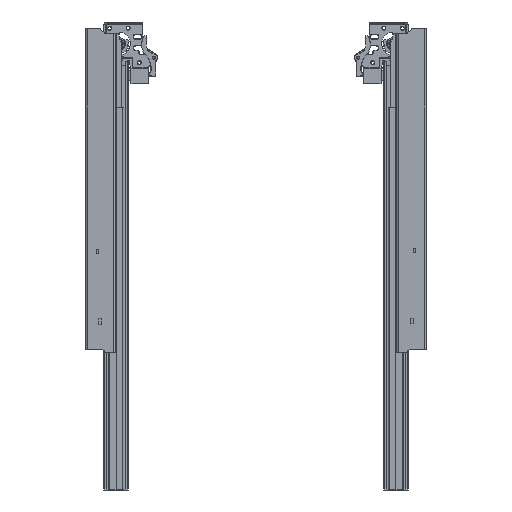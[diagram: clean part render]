
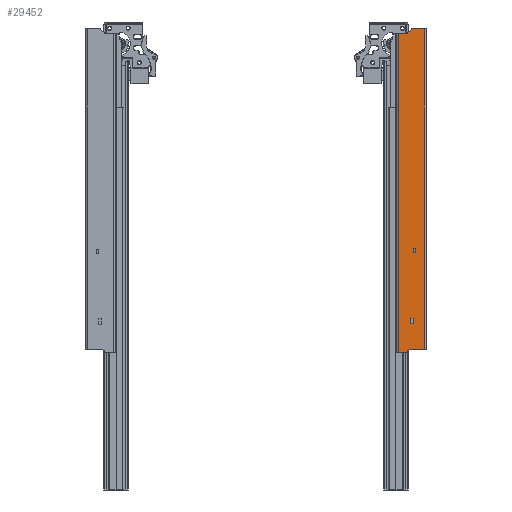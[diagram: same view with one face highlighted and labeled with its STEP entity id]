
A CAD part, front view. The second image highlights one B-rep face of the part: STEP entity #29452.
In plain terms, the highlighted planar face has unit normal (0, -1, 0).
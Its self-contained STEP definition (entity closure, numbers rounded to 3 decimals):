
#913=FACE_BOUND('',#6219,.T.);
#914=FACE_BOUND('',#6220,.T.);
#2063=CIRCLE('',#31495,2.);
#2064=CIRCLE('',#31496,2.);
#4234=FACE_OUTER_BOUND('',#6218,.T.);
#6218=EDGE_LOOP('',(#19273,#19274,#19275,#19276,#19277,#19278,#19279,#19280,
#19281,#19282));
#6219=EDGE_LOOP('',(#19283,#19284,#19285,#19286));
#6220=EDGE_LOOP('',(#19287,#19288,#19289,#19290));
#8328=LINE('',#45893,#10248);
#8332=LINE('',#45901,#10252);
#8335=LINE('',#45907,#10255);
#8338=LINE('',#45912,#10258);
#8340=LINE('',#45918,#10260);
#8344=LINE('',#45926,#10264);
#8347=LINE('',#45932,#10267);
#8350=LINE('',#45937,#10270);
#8352=LINE('',#45943,#10272);
#8357=LINE('',#45957,#10277);
#8375=LINE('',#46012,#10295);
#8376=LINE('',#46015,#10296);
#8377=LINE('',#46019,#10297);
#8378=LINE('',#46023,#10298);
#8379=LINE('',#46025,#10299);
#8380=LINE('',#46026,#10300);
#10248=VECTOR('',#35909,5.);
#10252=VECTOR('',#35915,3.);
#10255=VECTOR('',#35920,5.);
#10258=VECTOR('',#35925,3.);
#10260=VECTOR('',#35931,6.);
#10264=VECTOR('',#35937,3.5);
#10267=VECTOR('',#35942,6.);
#10270=VECTOR('',#35947,3.5);
#10272=VECTOR('',#35953,4.243);
#10277=VECTOR('',#35964,18.);
#10295=VECTOR('',#36010,377.);
#10296=VECTOR('',#36013,14.172);
#10297=VECTOR('',#36016,5.414);
#10298=VECTOR('',#36019,9.672);
#10299=VECTOR('',#36020,375.);
#10300=VECTOR('',#36021,9.5);
#12225=VERTEX_POINT('',#45891);
#12226=VERTEX_POINT('',#45892);
#12229=VERTEX_POINT('',#45900);
#12231=VERTEX_POINT('',#45906);
#12233=VERTEX_POINT('',#45916);
#12234=VERTEX_POINT('',#45917);
#12237=VERTEX_POINT('',#45925);
#12239=VERTEX_POINT('',#45931);
#12241=VERTEX_POINT('',#45941);
#12242=VERTEX_POINT('',#45942);
#12248=VERTEX_POINT('',#45955);
#12271=VERTEX_POINT('',#46010);
#12272=VERTEX_POINT('',#46014);
#12273=VERTEX_POINT('',#46016);
#12274=VERTEX_POINT('',#46018);
#12275=VERTEX_POINT('',#46020);
#12276=VERTEX_POINT('',#46022);
#12277=VERTEX_POINT('',#46024);
#14756=EDGE_CURVE('',#12225,#12226,#8328,.T.);
#14760=EDGE_CURVE('',#12226,#12229,#8332,.T.);
#14763=EDGE_CURVE('',#12229,#12231,#8335,.T.);
#14766=EDGE_CURVE('',#12231,#12225,#8338,.T.);
#14768=EDGE_CURVE('',#12233,#12234,#8340,.T.);
#14772=EDGE_CURVE('',#12234,#12237,#8344,.T.);
#14775=EDGE_CURVE('',#12237,#12239,#8347,.T.);
#14778=EDGE_CURVE('',#12239,#12233,#8350,.T.);
#14780=EDGE_CURVE('',#12241,#12242,#8352,.T.);
#14787=EDGE_CURVE('',#12248,#12241,#8357,.T.);
#14815=EDGE_CURVE('',#12271,#12248,#8375,.T.);
#14816=EDGE_CURVE('',#12271,#12272,#8376,.T.);
#14817=EDGE_CURVE('',#12272,#12273,#2063,.T.);
#14818=EDGE_CURVE('',#12274,#12273,#8377,.T.);
#14819=EDGE_CURVE('',#12274,#12275,#2064,.T.);
#14820=EDGE_CURVE('',#12276,#12275,#8378,.T.);
#14821=EDGE_CURVE('',#12276,#12277,#8379,.T.);
#14822=EDGE_CURVE('',#12277,#12242,#8380,.T.);
#19273=ORIENTED_EDGE('',*,*,#14787,.F.);
#19274=ORIENTED_EDGE('',*,*,#14815,.F.);
#19275=ORIENTED_EDGE('',*,*,#14816,.T.);
#19276=ORIENTED_EDGE('',*,*,#14817,.T.);
#19277=ORIENTED_EDGE('',*,*,#14818,.F.);
#19278=ORIENTED_EDGE('',*,*,#14819,.T.);
#19279=ORIENTED_EDGE('',*,*,#14820,.F.);
#19280=ORIENTED_EDGE('',*,*,#14821,.T.);
#19281=ORIENTED_EDGE('',*,*,#14822,.T.);
#19282=ORIENTED_EDGE('',*,*,#14780,.F.);
#19283=ORIENTED_EDGE('',*,*,#14756,.T.);
#19284=ORIENTED_EDGE('',*,*,#14760,.T.);
#19285=ORIENTED_EDGE('',*,*,#14763,.T.);
#19286=ORIENTED_EDGE('',*,*,#14766,.T.);
#19287=ORIENTED_EDGE('',*,*,#14768,.T.);
#19288=ORIENTED_EDGE('',*,*,#14772,.T.);
#19289=ORIENTED_EDGE('',*,*,#14775,.T.);
#19290=ORIENTED_EDGE('',*,*,#14778,.T.);
#27049=PLANE('',#31494);
#29452=ADVANCED_FACE('',(#4234,#913,#914),#27049,.F.);
#31494=AXIS2_PLACEMENT_3D('',#46013,#36011,#36012);
#31495=AXIS2_PLACEMENT_3D('',#46017,#36014,#36015);
#31496=AXIS2_PLACEMENT_3D('',#46021,#36017,#36018);
#35909=DIRECTION('',(0.,0.,1.));
#35915=DIRECTION('',(1.,0.,0.));
#35920=DIRECTION('',(0.,0.,-1.));
#35925=DIRECTION('',(-1.,0.,0.));
#35931=DIRECTION('',(0.,0.,1.));
#35937=DIRECTION('',(1.,0.,0.));
#35942=DIRECTION('',(0.,0.,-1.));
#35947=DIRECTION('',(-1.,0.,0.));
#35953=DIRECTION('',(-0.707,0.,-0.707));
#35964=DIRECTION('',(-1.,0.,0.));
#36010=DIRECTION('',(0.,0.,-1.));
#36011=DIRECTION('center_axis',(0.,1.,0.));
#36012=DIRECTION('ref_axis',(1.,0.,0.));
#36013=DIRECTION('',(-1.,0.,0.));
#36014=DIRECTION('center_axis',(0.,-1.,0.));
#36015=DIRECTION('ref_axis',(-0.383,0.,0.924));
#36016=DIRECTION('',(0.707,0.,0.707));
#36017=DIRECTION('center_axis',(0.,1.,0.));
#36018=DIRECTION('ref_axis',(0.383,0.,-0.924));
#36019=DIRECTION('',(1.,0.,0.));
#36020=DIRECTION('',(0.,0.,-1.));
#36021=DIRECTION('',(1.,0.,0.));
#45891=CARTESIAN_POINT('',(-15.,0.,-263.));
#45892=CARTESIAN_POINT('',(-15.,0.,-258.));
#45893=CARTESIAN_POINT('',(-15.,0.,-129.));
#45900=CARTESIAN_POINT('',(-12.,0.,-258.));
#45901=CARTESIAN_POINT('',(-22.25,0.,-258.));
#45906=CARTESIAN_POINT('',(-12.,0.,-263.));
#45907=CARTESIAN_POINT('',(-12.,0.,-131.5));
#45912=CARTESIAN_POINT('',(-23.75,0.,-263.));
#45916=CARTESIAN_POINT('',(-18.5,0.,-346.));
#45917=CARTESIAN_POINT('',(-18.5,0.,-340.));
#45918=CARTESIAN_POINT('',(-18.5,0.,-170.));
#45925=CARTESIAN_POINT('',(-15.,0.,-340.));
#45926=CARTESIAN_POINT('',(-23.75,0.,-340.));
#45931=CARTESIAN_POINT('',(-15.,0.,-346.));
#45932=CARTESIAN_POINT('',(-15.,0.,-173.));
#45937=CARTESIAN_POINT('',(-25.5,0.,-346.));
#45941=CARTESIAN_POINT('',(-20.,0.,-377.));
#45942=CARTESIAN_POINT('',(-23.,0.,-380.));
#45943=CARTESIAN_POINT('',(71.125,0.,-285.875));
#45955=CARTESIAN_POINT('',(-2.,0.,-377.));
#45957=CARTESIAN_POINT('',(-16.25,0.,-377.));
#46010=CARTESIAN_POINT('',(-2.,0.,0.));
#46012=CARTESIAN_POINT('',(-2.,0.,0.));
#46013=CARTESIAN_POINT('Origin',(-32.5,0.,0.));
#46014=CARTESIAN_POINT('',(-16.172,0.,0.));
#46015=CARTESIAN_POINT('',(-2.,0.,0.));
#46016=CARTESIAN_POINT('',(-17.586,0.,-0.586));
#46017=CARTESIAN_POINT('Origin',(-16.172,0.,
-2.));
#46018=CARTESIAN_POINT('',(-21.414,0.,-4.414));
#46019=CARTESIAN_POINT('',(-23.375,0.,-6.375));
#46020=CARTESIAN_POINT('',(-22.828,0.,-5.));
#46021=CARTESIAN_POINT('Origin',(-22.828,0.,
-3.));
#46022=CARTESIAN_POINT('',(-32.5,0.,-5.));
#46023=CARTESIAN_POINT('',(-35.75,0.,-5.));
#46024=CARTESIAN_POINT('',(-32.5,0.,-380.));
#46025=CARTESIAN_POINT('',(-32.5,0.,0.));
#46026=CARTESIAN_POINT('',(-2.,0.,-380.));
